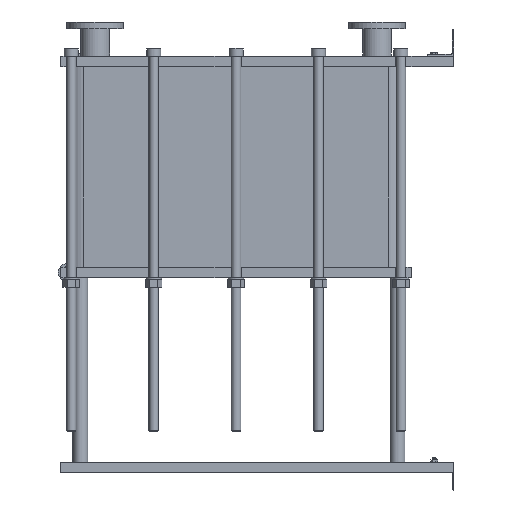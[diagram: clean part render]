
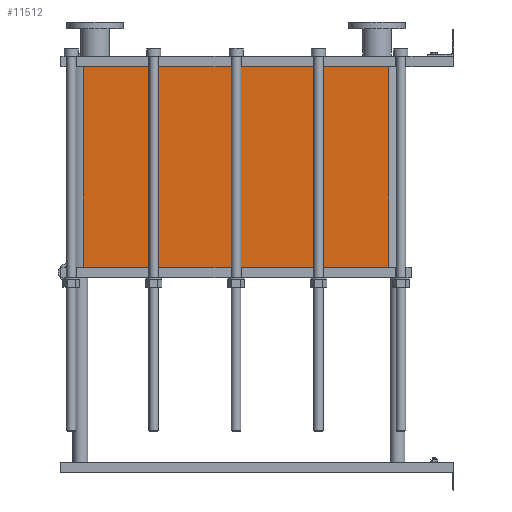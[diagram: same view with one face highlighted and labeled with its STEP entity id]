
A CAD part, left-side view. The second image highlights one B-rep face of the part: STEP entity #11512.
In plain terms, the highlighted planar face has unit normal (-1, 0, 0).
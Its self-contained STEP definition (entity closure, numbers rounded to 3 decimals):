
#1129=LINE('',#23232,#2102);
#1130=LINE('',#23236,#2103);
#1131=LINE('',#23238,#2104);
#1132=LINE('',#23239,#2105);
#2102=VECTOR('',#15887,10.);
#2103=VECTOR('',#15892,10.);
#2104=VECTOR('',#15893,10.);
#2105=VECTOR('',#15894,10.);
#3267=FACE_OUTER_BOUND('',#4093,.T.);
#4093=EDGE_LOOP('',(#10103,#10104,#10105,#10106));
#5642=VERTEX_POINT('',#23229);
#5643=VERTEX_POINT('',#23231);
#5644=VERTEX_POINT('',#23235);
#5645=VERTEX_POINT('',#23237);
#7159=EDGE_CURVE('',#5643,#5642,#1129,.T.);
#7161=EDGE_CURVE('',#5642,#5644,#1130,.T.);
#7162=EDGE_CURVE('',#5645,#5644,#1131,.T.);
#7163=EDGE_CURVE('',#5645,#5643,#1132,.T.);
#10103=ORIENTED_EDGE('',*,*,#7161,.T.);
#10104=ORIENTED_EDGE('',*,*,#7162,.F.);
#10105=ORIENTED_EDGE('',*,*,#7163,.T.);
#10106=ORIENTED_EDGE('',*,*,#7159,.T.);
#10857=PLANE('',#12751);
#11512=ADVANCED_FACE('',(#3267),#10857,.T.);
#12751=AXIS2_PLACEMENT_3D('',#23234,#15890,#15891);
#15887=DIRECTION('',(0.,0.,-1.));
#15890=DIRECTION('center_axis',(-1.,0.,0.));
#15891=DIRECTION('ref_axis',(0.,1.,0.));
#15892=DIRECTION('',(0.,-1.,0.));
#15893=DIRECTION('',(0.,0.,-1.));
#15894=DIRECTION('',(0.,1.,0.));
#23229=CARTESIAN_POINT('',(-200.,1414.,-765.9));
#23231=CARTESIAN_POINT('',(-200.,1414.,0.));
#23232=CARTESIAN_POINT('',(-200.,1414.,0.));
#23234=CARTESIAN_POINT('Origin',(-200.,248.,0.));
#23235=CARTESIAN_POINT('',(-200.,248.,-765.9));
#23236=CARTESIAN_POINT('',(-200.,539.5,-765.9));
#23237=CARTESIAN_POINT('',(-200.,248.,0.));
#23238=CARTESIAN_POINT('',(-200.,248.,0.));
#23239=CARTESIAN_POINT('',(-200.,248.,0.));
